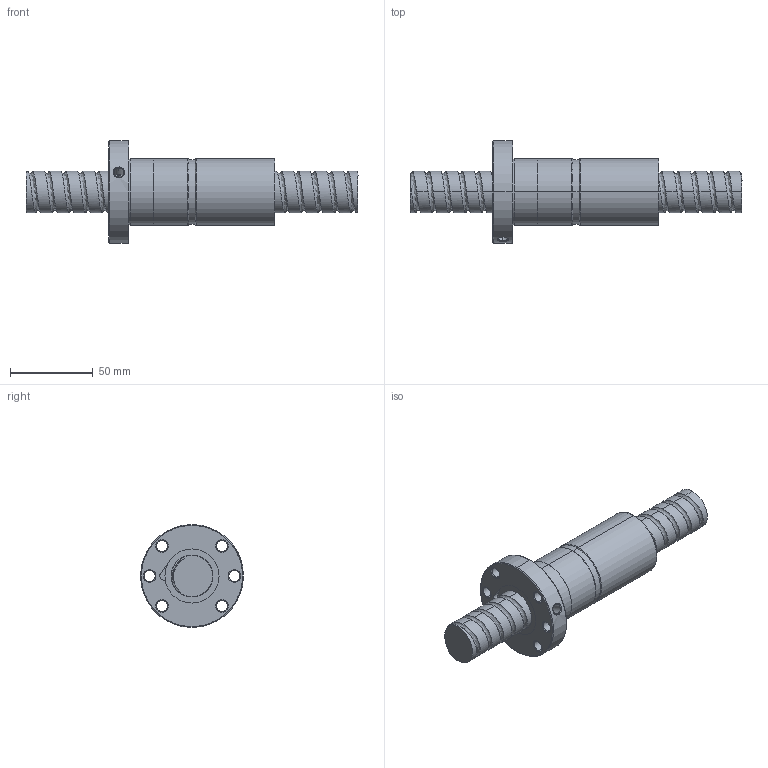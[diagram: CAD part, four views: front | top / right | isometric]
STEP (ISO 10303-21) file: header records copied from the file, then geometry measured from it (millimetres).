
FILE_DESCRIPTION (( 'STEP AP214' ), '1' );
FILE_NAME ('FDDC02510T3-B-A.STEP', '2010-07-06T02:50:28', ( 'XPAUTO' ), ( 'XPAUTO' ), 'SwSTEP 2.0', 'SolidWorks 2007', '' );
FILE_SCHEMA (( 'AUTOMOTIVE_DESIGN' ));
Length unit declared in the file: millimetre
Products named in the file (3): FDDC02510T3-B-A.sldasm-Part-1_預設; FDDC02510T3-B-A; FDDC02510T3-B-A.sldasm-Part-2_預設
Assembly tree (2 placements, depth 2):
  FDDC02510T3-B-A
    FDDC02510T3-B-A.sldasm-Part-2_預設
    FDDC02510T3-B-A.sldasm-Part-1_預設
Bounding box: 200 x 62 x 62 mm (x, y, z)
Volume: 186309.7 mm3; surface area: 46172 mm2
Topology: 2 solids, 2 shells, 140 faces, 350 edges, 219 vertices
Faces by surface type: cylinder 85, cone 24, plane 16, torus 10, bspline 5
Entity records: 26523 total; most frequent: CARTESIAN_POINT 23183, ORIENTED_EDGE 700, DIRECTION 656, EDGE_CURVE 350, AXIS2_PLACEMENT_3D 270, VERTEX_POINT 219, EDGE_LOOP 161, ADVANCED_FACE 140
